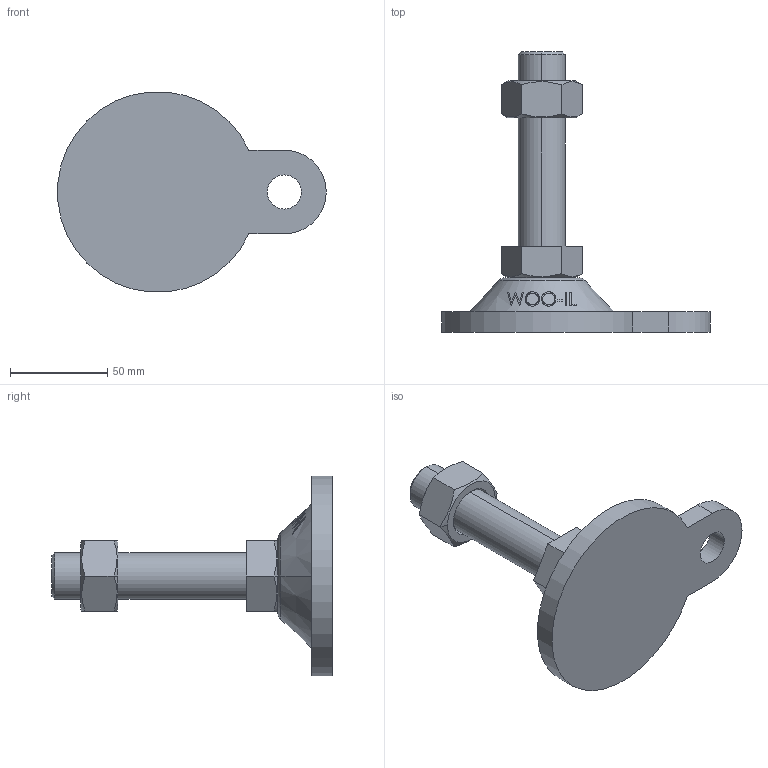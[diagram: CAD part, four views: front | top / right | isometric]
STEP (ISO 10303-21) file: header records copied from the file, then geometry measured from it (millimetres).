
FILE_DESCRIPTION (( 'STEP AP214' ), '1' );
FILE_NAME ('ARB103-M24-100.step', '2021-03-25T00:41:58', ( '' ), ( '' ), 'SwSTEP 2.0', 'SolidWorks 2019', '' );
FILE_SCHEMA (( 'AUTOMOTIVE_DESIGN' ));
Length unit declared in the file: millimetre
Products named in the file (2): ARB103-M24-100
Bounding box: 137.8 x 144 x 102.64 mm (x, y, z)
Volume: 221841.8 mm3; surface area: 41410.8 mm2
Topology: 3 solids, 3 shells, 97 faces, 229 edges, 148 vertices
Faces by surface type: plane 49, cone 22, bspline 16, cylinder 8, torus 2
Entity records: 4448 total; most frequent: CARTESIAN_POINT 2286, ORIENTED_EDGE 458, DIRECTION 375, EDGE_CURVE 229, VERTEX_POINT 148, AXIS2_PLACEMENT_3D 143, EDGE_LOOP 111, FACE_OUTER_BOUND 97
